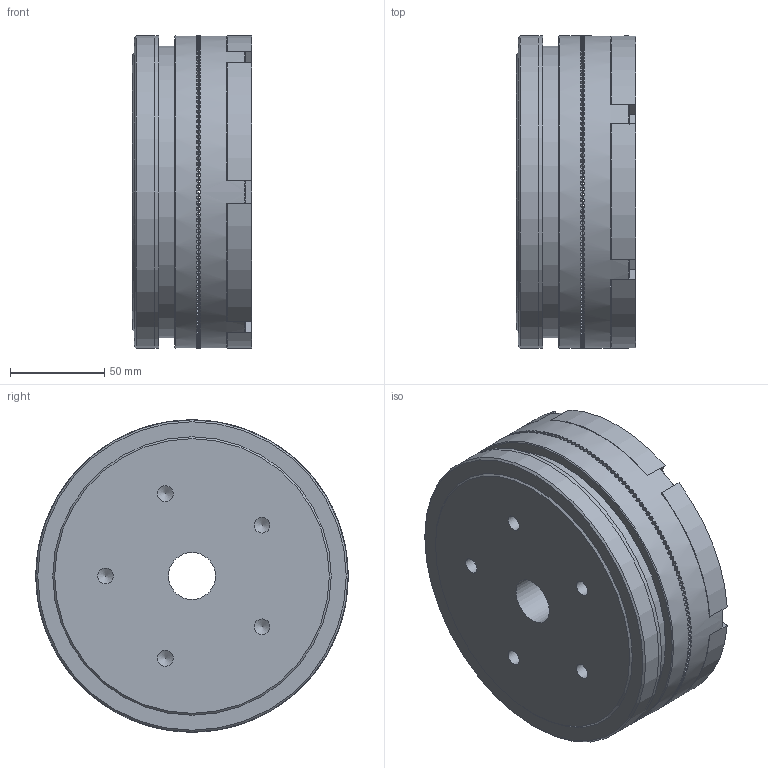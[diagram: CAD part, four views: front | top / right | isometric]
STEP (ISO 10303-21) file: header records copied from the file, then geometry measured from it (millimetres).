
FILE_DESCRIPTION(/* description */ (''),/* implementation_level */ '2;1');
FILE_NAME(/* name */ 'X:\INVENTOR\DISEGNI\07_Innesti_Elettmag_a_Dentini\07_01 EC_Z\07_01_166_01 EC166_Z\07_01_166_01 EC166_Z@STEP.stp',/* time_stamp */ '2023-02-07T08:43:50+01:00',/* author */ ('alessio'),/* organization */ (''),/* preprocessor_version */ 'ST-DEVELOPER v18.1',/* originating_system */ 'Autodesk Inventor 2021',/* authorisation */ '');
FILE_SCHEMA (('AUTOMOTIVE_DESIGN { 1 0 10303 214 3 1 1 }'));
Products named in the file (1): 07_01_166_01 EC166_Z_Substitute_1
Bounding box: 63.5 x 166 x 166 mm (x, y, z)
Volume: 1008011.6 mm3; surface area: 164650.1 mm2
Topology: 2 solids, 2 shells, 1676 faces, 4887 edges, 3227 vertices
Faces by surface type: plane 1572, cylinder 77, cone 24, torus 3
Full cylindrical faces by diameter (mm): 4.917 x3, 6 x1, 7.9 x3, 8.376 x5, 8.5 x3, 12 x3, 13 x3, 25 x1, 80 x3, 108 x2, 132 x2, 150 x1, 153 x1, 154 x2, 155 x1, 166 x4
Entity records: 57383 total; most frequent: DIRECTION 11172, CARTESIAN_POINT 10146, ORIENTED_EDGE 9760, EDGE_CURVE 4880, AXIS2_PLACEMENT_3D 4674, VERTEX_POINT 3227, ELLIPSE 2092, LINE 1824
